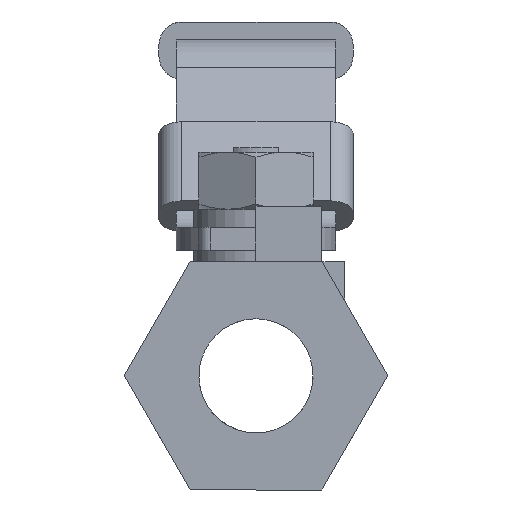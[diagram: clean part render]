
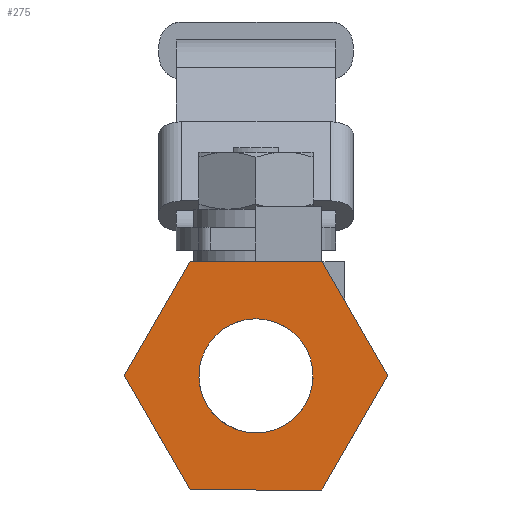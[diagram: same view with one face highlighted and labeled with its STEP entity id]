
A CAD part, left-side view. The second image highlights one B-rep face of the part: STEP entity #275.
In plain terms, the highlighted planar face has unit normal (-1, 0, 0) as drawn and (1, 0, 0) by its records, which use the part's own axes.
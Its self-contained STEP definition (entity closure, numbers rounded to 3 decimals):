
#275=ADVANCED_FACE('',(#1147,#1148),#1146,.F.);
#1146=PLANE('',#2237);
#1147=FACE_OUTER_BOUND('',#2238,.T.);
#1148=FACE_BOUND('',#2239,.T.);
#2234=CARTESIAN_POINT('',(44.,-3.856,-2.));
#2235=DIRECTION('',(-1.,0.,0.));
#2236=DIRECTION('',(0.,0.,1.));
#2237=AXIS2_PLACEMENT_3D('',#2234,#2235,#2236);
#2238=EDGE_LOOP('',(#3008,#3009,#3010,#3011,#3012,#3013));
#2239=EDGE_LOOP('',(#3014,#3015,#3016));
#3008=ORIENTED_EDGE('',*,*,#3491,.T.);
#3009=ORIENTED_EDGE('',*,*,#3487,.T.);
#3010=ORIENTED_EDGE('',*,*,#3483,.T.);
#3011=ORIENTED_EDGE('',*,*,#3473,.T.);
#3012=ORIENTED_EDGE('',*,*,#3465,.T.);
#3013=ORIENTED_EDGE('',*,*,#3463,.T.);
#3014=ORIENTED_EDGE('',*,*,#3560,.F.);
#3015=ORIENTED_EDGE('',*,*,#3561,.F.);
#3016=ORIENTED_EDGE('',*,*,#3562,.F.);
#3463=EDGE_CURVE('',#4516,#4509,#4517,.T.);
#3465=EDGE_CURVE('',#4529,#4516,#4530,.T.);
#3473=EDGE_CURVE('',#4582,#4529,#4583,.T.);
#3483=EDGE_CURVE('',#4649,#4582,#4650,.T.);
#3487=EDGE_CURVE('',#4675,#4649,#4676,.T.);
#3491=EDGE_CURVE('',#4509,#4675,#4701,.T.);
#3560=EDGE_CURVE('',#5149,#5150,#5151,.T.);
#3561=EDGE_CURVE('',#5157,#5149,#5158,.T.);
#3562=EDGE_CURVE('',#5150,#5157,#5164,.T.);
#4509=VERTEX_POINT('',#6696);
#4516=VERTEX_POINT('',#6700);
#4517=LINE('',#6701,#6702);
#4529=VERTEX_POINT('',#6707);
#4530=LINE('',#6708,#6709);
#4582=VERTEX_POINT('',#6736);
#4583=LINE('',#6737,#6738);
#4649=VERTEX_POINT('',#6777);
#4650=LINE('',#6778,#6779);
#4675=VERTEX_POINT('',#6791);
#4676=LINE('',#6792,#6793);
#4701=LINE('',#6805,#6806);
#5149=VERTEX_POINT('',#7057);
#5150=VERTEX_POINT('',#7058);
#5151=CIRCLE('',#7062,5.);
#5157=VERTEX_POINT('',#7063);
#5158=CIRCLE('',#7067,5.);
#5164=CIRCLE('',#7071,5.);
#6696=CARTESIAN_POINT('',(44.,4.226,0.));
#6700=CARTESIAN_POINT('',(44.,-1.547,10.));
#6701=CARTESIAN_POINT('',(44.,-1.547,10.));
#6702=VECTOR('',#6703,11.547);
#6703=DIRECTION('',(0.,0.5,-0.866));
#6707=CARTESIAN_POINT('',(44.,4.226,20.));
#6708=CARTESIAN_POINT('',(44.,4.226,20.));
#6709=VECTOR('',#6710,11.547);
#6710=DIRECTION('',(0.,-0.5,-0.866));
#6736=CARTESIAN_POINT('',(44.,15.774,20.));
#6737=CARTESIAN_POINT('',(44.,15.774,20.));
#6738=VECTOR('',#6739,11.547);
#6739=DIRECTION('',(0.,-1.,0.));
#6777=CARTESIAN_POINT('',(44.,21.547,10.));
#6778=CARTESIAN_POINT('',(44.,21.547,10.));
#6779=VECTOR('',#6780,11.547);
#6780=DIRECTION('',(0.,-0.5,0.866));
#6791=CARTESIAN_POINT('',(44.,15.774,0.));
#6792=CARTESIAN_POINT('',(44.,15.774,0.));
#6793=VECTOR('',#6794,11.547);
#6794=DIRECTION('',(0.,0.5,0.866));
#6805=CARTESIAN_POINT('',(44.,4.226,0.));
#6806=VECTOR('',#6807,11.547);
#6807=DIRECTION('',(0.,1.,0.));
#7057=CARTESIAN_POINT('',(44.,14.455,12.27));
#7058=CARTESIAN_POINT('',(44.,10.,15.));
#7059=CARTESIAN_POINT('',(44.,10.,10.));
#7060=DIRECTION('',(1.,0.,0.));
#7061=DIRECTION('',(0.,0.,1.));
#7062=AXIS2_PLACEMENT_3D('',#7059,#7060,#7061);
#7063=CARTESIAN_POINT('',(44.,5.569,12.316));
#7064=CARTESIAN_POINT('',(44.,10.,10.));
#7065=DIRECTION('',(1.,0.,0.));
#7066=DIRECTION('',(0.,0.,1.));
#7067=AXIS2_PLACEMENT_3D('',#7064,#7065,#7066);
#7068=CARTESIAN_POINT('',(44.,10.,10.));
#7069=DIRECTION('',(1.,0.,0.));
#7070=DIRECTION('',(0.,0.,1.));
#7071=AXIS2_PLACEMENT_3D('',#7068,#7069,#7070);
